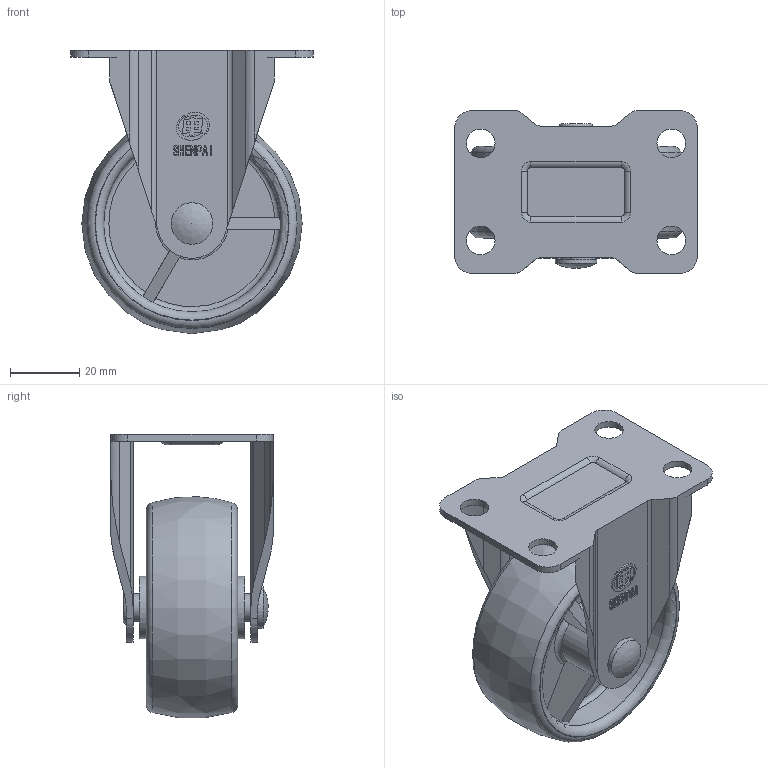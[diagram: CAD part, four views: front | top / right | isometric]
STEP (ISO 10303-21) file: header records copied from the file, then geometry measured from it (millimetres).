
FILE_DESCRIPTION(/* description */ (''),/* implementation_level */ '2;1');
FILE_NAME(/* name */ '10A19_2.5_F.stp',/* time_stamp */ '2022-10-06T13:47:24+08:00',/* author */ (''),/* organization */ (''),/* preprocessor_version */ 'ST-DEVELOPER v14',/* originating_system */ 'SIEMENS PLM Software NX 8.0',/* authorisation */ '');
FILE_SCHEMA (('AUTOMOTIVE_DESIGN { 1 0 10303 214 3 1 1 1 }'));
Length unit declared in the file: millimetre
Products named in the file (1): 10A19_2.5_F
Bounding box: 70 x 47 x 81.81 mm (x, y, z)
Volume: 56975.1 mm3; surface area: 31581 mm2
Topology: 1 solids, 1 shells, 316 faces, 870 edges, 581 vertices
Faces by surface type: plane 218, cylinder 71, torus 21, bspline 6
Full cylindrical faces by diameter (mm): 6.4 x1, 8 x2, 8.3 x6, 12 x1, 18 x2, 51 x2
Entity records: 10546 total; most frequent: CARTESIAN_POINT 2954, ORIENTED_EDGE 1670, DIRECTION 1396, EDGE_CURVE 835, VERTEX_POINT 568, AXIS2_PLACEMENT_3D 508, LINE 380, VECTOR 380
